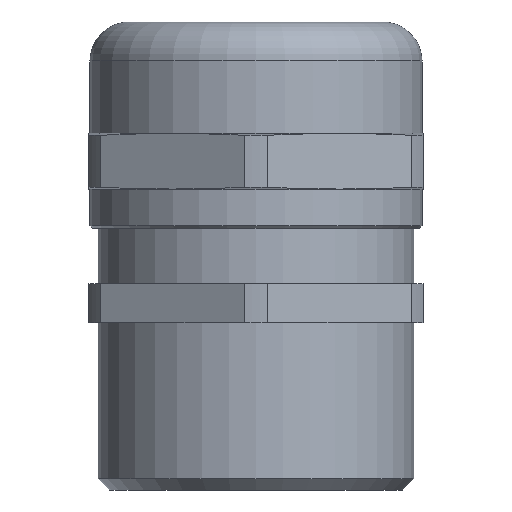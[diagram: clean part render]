
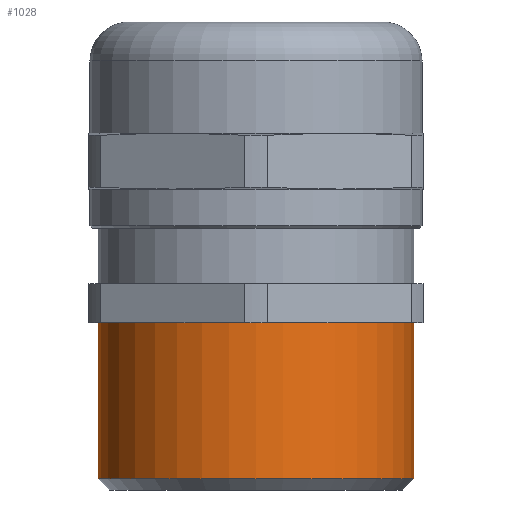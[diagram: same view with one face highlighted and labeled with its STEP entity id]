
A CAD part, front view. The second image highlights one B-rep face of the part: STEP entity #1028.
In plain terms, the highlighted cylindrical face has radius 14.15 mm (diameter 28.3 mm), a partial arc.
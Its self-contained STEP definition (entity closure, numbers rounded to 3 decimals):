
#114 = CARTESIAN_POINT ( 'NONE',  ( -14.15, 0., 0. ) ) ;
#115 = LINE ( 'NONE', #114, #178 ) ;
#163 = CARTESIAN_POINT ( 'NONE',  ( -14.15, 0., 1. ) ) ;
#164 = CARTESIAN_POINT ( 'NONE',  ( 14.15, 0., 15. ) ) ;
#166 = CARTESIAN_POINT ( 'NONE',  ( 14.15, 0., 1. ) ) ;
#167 = DIRECTION ( 'NONE',  ( 0., 0., -1. ) ) ;
#168 = VECTOR ( 'NONE', #167, 1000. ) ;
#169 = CARTESIAN_POINT ( 'NONE',  ( 14.15, 0., 0. ) ) ;
#170 = LINE ( 'NONE', #169, #168 ) ;
#177 = DIRECTION ( 'NONE',  ( 0., 0., -1. ) ) ;
#178 = VECTOR ( 'NONE', #177, 1000. ) ;
#1027 = ORIENTED_EDGE ( 'NONE', *, *, #1320, .F. ) ;
#1028 = ADVANCED_FACE ( 'NONE', ( #2512 ), #2443, .T. ) ;
#1029 = EDGE_LOOP ( 'NONE', ( #1027, #1077, #1079, #1910 ) ) ;
#1032 = EDGE_CURVE ( 'NONE', #1321, #1288, #2542, .T. ) ;
#1066 = VERTEX_POINT ( 'NONE', #2434 ) ;
#1077 = ORIENTED_EDGE ( 'NONE', *, *, #1078, .T. ) ;
#1078 = EDGE_CURVE ( 'NONE', #1286, #1066, #2511, .T. ) ;
#1079 = ORIENTED_EDGE ( 'NONE', *, *, #1324, .T. ) ;
#1286 = VERTEX_POINT ( 'NONE', #164 ) ;
#1288 = VERTEX_POINT ( 'NONE', #163 ) ;
#1320 = EDGE_CURVE ( 'NONE', #1286, #1321, #170, .T. ) ;
#1321 = VERTEX_POINT ( 'NONE', #166 ) ;
#1324 = EDGE_CURVE ( 'NONE', #1066, #1288, #115, .T. ) ;
#1910 = ORIENTED_EDGE ( 'NONE', *, *, #1032, .F. ) ;
#2434 = CARTESIAN_POINT ( 'NONE',  ( -14.15, 0., 15. ) ) ;
#2443 = CYLINDRICAL_SURFACE ( 'NONE', #2487, 14.15 ) ;
#2484 = DIRECTION ( 'NONE',  ( -1., 0., 0. ) ) ;
#2485 = DIRECTION ( 'NONE',  ( 0., 0., -1. ) ) ;
#2486 = CARTESIAN_POINT ( 'NONE',  ( 0., 0., 0. ) ) ;
#2487 = AXIS2_PLACEMENT_3D ( 'NONE', #2486, #2485, #2484 ) ;
#2510 = CARTESIAN_POINT ( 'NONE',  ( 0., 0., 15. ) ) ;
#2511 = CIRCLE ( 'NONE', #2516, 14.15 ) ;
#2512 = FACE_OUTER_BOUND ( 'NONE', #1029, .T. ) ;
#2514 = DIRECTION ( 'NONE',  ( -1., 0., 0. ) ) ;
#2515 = DIRECTION ( 'NONE',  ( 0., 0., -1. ) ) ;
#2516 = AXIS2_PLACEMENT_3D ( 'NONE', #2510, #2515, #2514 ) ;
#2539 = DIRECTION ( 'NONE',  ( 0., 0., -1. ) ) ;
#2540 = CARTESIAN_POINT ( 'NONE',  ( 0., 0., 1. ) ) ;
#2541 = AXIS2_PLACEMENT_3D ( 'NONE', #2540, #2539, #2564 ) ;
#2542 = CIRCLE ( 'NONE', #2541, 14.15 ) ;
#2564 = DIRECTION ( 'NONE',  ( -1., 0., 0. ) ) ;
